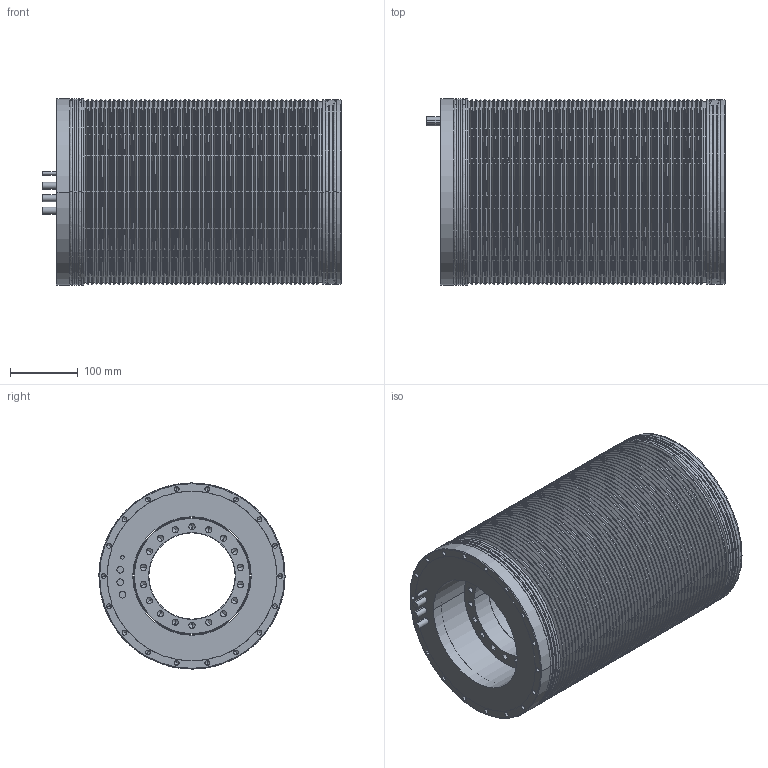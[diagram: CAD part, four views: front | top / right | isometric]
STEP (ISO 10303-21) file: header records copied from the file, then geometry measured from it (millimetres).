
FILE_DESCRIPTION((''),'2;1');
FILE_NAME('TK260-300','2017-10-26T',('stefanos'),(''),'CREO PARAMETRIC BY PTC INC, 2015480','CREO PARAMETRIC BY PTC INC, 2015480','');
FILE_SCHEMA(('CONFIG_CONTROL_DESIGN'));
Length unit declared in the file: millimetre
Products named in the file (1): TK260-300
Bounding box: 440 x 274 x 274 mm (x, y, z)
Volume: 17157962.1 mm3; surface area: 2329970.7 mm2
Topology: 9 solids, 9 shells, 807 faces, 1722 edges, 898 vertices
Faces by surface type: cylinder 394, cone 344, plane 37, torus 16, revolution 16
Entity records: 22006 total; most frequent: CARTESIAN_POINT 4751, DIRECTION 4024, ORIENTED_EDGE 3228, AXIS2_PLACEMENT_3D 1635, EDGE_CURVE 1614, VERTEX_POINT 898, EDGE_LOOP 898, CIRCLE 844
